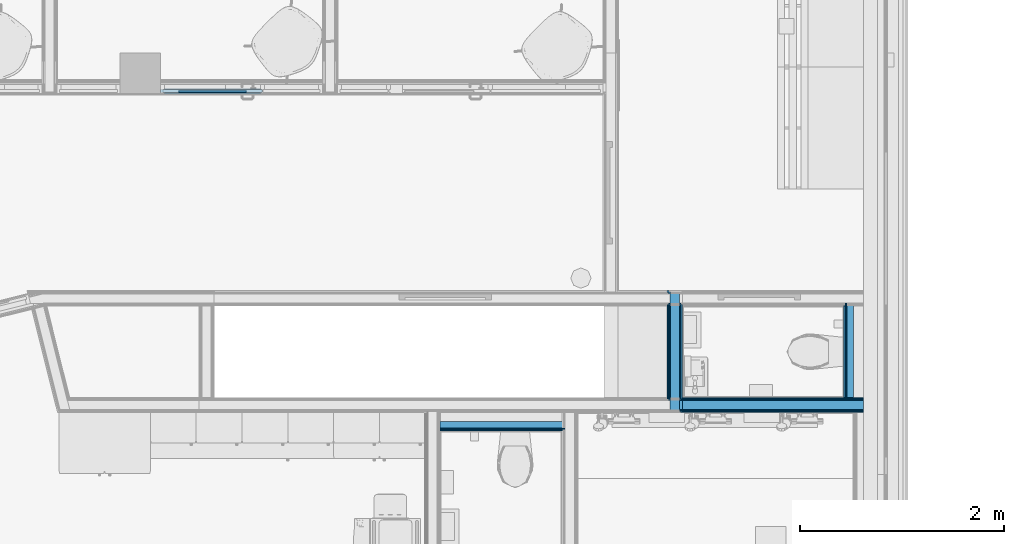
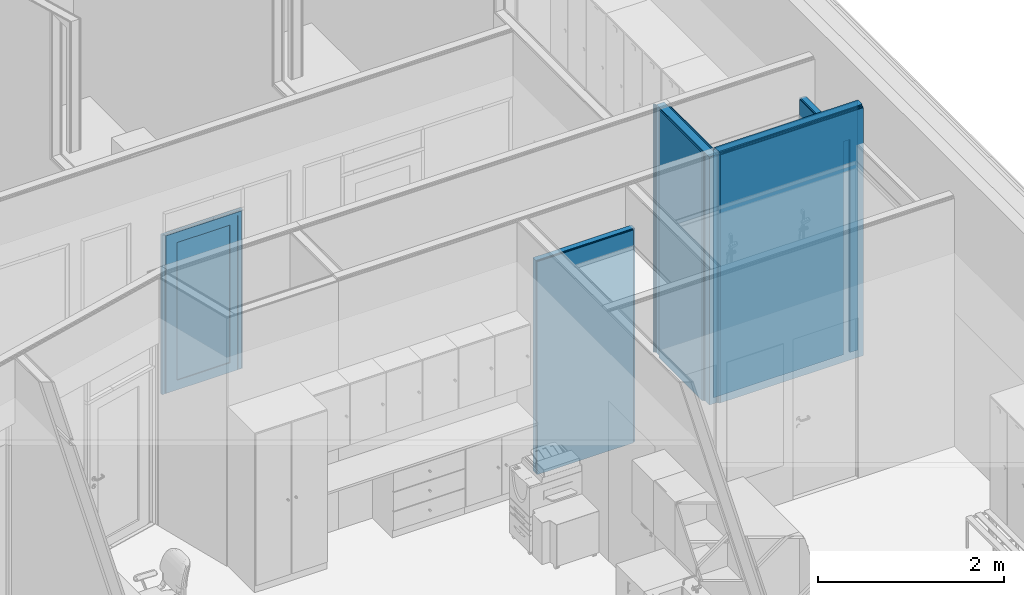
# One storey, part 82 of 153: 18 building element parts, 6 elements without a shape of their own.
"""IFC2X3 building model written with IfcOpenShell, lengths in millimetres."""

from ifc_helpers import new_model, entity, si_unit, converted_unit, derived_unit, money_unit, direction, frame, origin_with_axes, place, context, subcontext, project, spatial, faceted_brep, material, type_object, element, aggregate, save


model = new_model("IFC2X3")

# Units and contexts
model_context = context("Model", 3, precision=0.01, world=origin_with_axes(), true_north=direction((0.0, 1.0)))
body_context = subcontext(model_context, "Body", "Model", "MODEL_VIEW")
ifc_project = project(units=[si_unit("LENGTHUNIT", "METRE", prefix="MILLI"), si_unit("AREAUNIT", "SQUARE_METRE"), si_unit("VOLUMEUNIT", "CUBIC_METRE"), converted_unit("PLANEANGLEUNIT", "DEGREE", entity("IfcPlaneAngleMeasure", 0.0174532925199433), si_unit("PLANEANGLEUNIT", "RADIAN"), dimensions=[0, 0, 0, 0, 0, 0, 0]), money_unit("EUR"), converted_unit("TIMEUNIT", "Year", entity("IfcTimeMeasure", 31557600.0), si_unit("TIMEUNIT", "SECOND"), dimensions=[0, 0, 1, 0, 0, 0, 0]), si_unit("MASSUNIT", "GRAM", prefix="KILO"), si_unit("THERMODYNAMICTEMPERATUREUNIT", "DEGREE_CELSIUS"), si_unit("LUMINOUSINTENSITYUNIT", "LUMEN"), si_unit("ENERGYUNIT", "JOULE", prefix="MEGA"), derived_unit("THERMALCONDUCTANCEUNIT", [(si_unit("POWERUNIT", "WATT"), 1), (si_unit("LENGTHUNIT", "METRE"), -1), (si_unit("THERMODYNAMICTEMPERATUREUNIT", "KELVIN"), -1)]), derived_unit("SPECIFICHEATCAPACITYUNIT", [(si_unit("ENERGYUNIT", "JOULE"), 1), (si_unit("MASSUNIT", "GRAM", prefix="KILO"), -1), (si_unit("THERMODYNAMICTEMPERATUREUNIT", "KELVIN"), -1)]), derived_unit("MASSDENSITYUNIT", [(si_unit("MASSUNIT", "GRAM", prefix="KILO"), 1), (si_unit("VOLUMEUNIT", "CUBIC_METRE"), -1)])], contexts=[model_context])

# Site, building, storey
site_placement = place(None, frame((0.0, 0.0, 8650.0), z_axis=(0.0, 0.0, 1.0), x_axis=(1.0, 0.0, 0.0)))
site = spatial("IfcSite", under=ifc_project, at=site_placement, Name="43301:001:0844", CompositionType="ELEMENT")
building_placement = place(site_placement, origin_with_axes())
building = spatial("IfcBuilding", under=site, at=building_placement, Name="Kuressaare Ametikooli tuulikute mehaanikute õppekorpus", CompositionType="ELEMENT")
storey_placement = place(building_placement, frame((0.0, 0.0, 4100.0), z_axis=(0.0, 0.0, 1.0), x_axis=(1.0, 0.0, 0.0)))
storey = spatial("IfcBuildingStorey", under=building, at=storey_placement, Name="2.korrus", CompositionType="ELEMENT", Elevation=4100.0)

# Wall, building element parts
wall_type_1 = type_object("IfcWallType", Name="SS-2.4 92", PredefinedType="NOTDEFINED")
wall_1_placement = place(storey_placement, frame((132833.9464416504, 21634.06892395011, 0.0), z_axis=(0.0, 0.0, 1.0), x_axis=(0.0, -1.0, 0.0)))
wall_1 = element("IfcWall", 1, at=wall_1_placement, inside=storey, type_object=wall_type_1, Name="Sisesein")
ifc_material_1 = material(Name="Air Space - Frame")
building_element_part_1_placement = place(wall_1_placement, origin_with_axes())
building_element_part_1 = element("IfcBuildingElementPart", 2, at=building_element_part_1_placement, material=ifc_material_1, Name="Air Space - Frame", context=body_context, shape_type="Brep", body=[
    faceted_brep([(1072.999999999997, 26.00000000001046, 2799.999999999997), (1072.999999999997, 92.00000000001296, 2799.999999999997), (120.9999999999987, 92.00000000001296, 2799.999999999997), (120.9999999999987, 26.00000000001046, 2799.999999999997), (1072.999999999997, 26.00000000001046, 0.0), (1072.999999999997, 92.00000000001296, 0.0), (120.9999999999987, 92.00000000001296, 0.0), (120.9999999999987, 26.00000000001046, 0.0)], [[[0, 1, 2, 3]], [[1, 0, 4, 5]], [[1, 5, 6, 2]], [[3, 2, 6, 7]], [[0, 3, 7, 4]], [[5, 4, 7, 6]]]),
])
ifc_material_2 = material(Name="Plywood")
building_element_part_2_placement = place(wall_1_placement, origin_with_axes())
building_element_part_2 = element("IfcBuildingElementPart", 3, at=building_element_part_2_placement, material=ifc_material_2, Name="Plywood", context=body_context, shape_type="Brep", body=[
    faceted_brep([(1072.999999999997, 13.00000000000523, 2799.999999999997), (1072.999999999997, 26.00000000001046, 2799.999999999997), (120.9999999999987, 26.00000000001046, 2799.999999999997), (120.9999999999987, 13.00000000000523, 2799.999999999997), (1072.999999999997, 13.00000000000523, 0.0), (1072.999999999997, 26.00000000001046, 0.0), (120.9999999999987, 26.00000000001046, 0.0), (120.9999999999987, 13.00000000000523, 0.0)], [[[0, 1, 2, 3]], [[1, 0, 4, 5]], [[1, 5, 6, 2]], [[3, 2, 6, 7]], [[0, 3, 7, 4]], [[5, 4, 7, 6]]]),
])
ifc_material_3 = material(Name="Plaster - Gypsum")
building_element_part_3_placement = place(wall_1_placement, origin_with_axes())
building_element_part_3 = element("IfcBuildingElementPart", 4, at=building_element_part_3_placement, material=ifc_material_3, Name="Plaster - Gypsum", context=body_context, shape_type="Brep", body=[
    faceted_brep([(1046.999999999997, 0.0, 2799.999999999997), (1046.999999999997, 13.00000000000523, 2799.999999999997), (146.9999999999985, 13.00000000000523, 2799.999999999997), (146.9999999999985, 0.0, 2799.999999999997), (1046.999999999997, 0.0, 0.0), (1046.999999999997, 13.00000000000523, 0.0), (146.9999999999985, 13.00000000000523, 0.0), (146.9999999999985, 0.0, 0.0)], [[[0, 1, 2, 3]], [[1, 0, 4, 5]], [[1, 5, 6, 2]], [[3, 2, 6, 7]], [[0, 3, 7, 4]], [[5, 4, 7, 6]]]),
])
aggregate(wall_1, [building_element_part_1, building_element_part_2, building_element_part_3])

wall_type_2 = type_object("IfcWallType", Name="SS-2.1 147", PredefinedType="NOTDEFINED")
wall_2_placement = place(storey_placement, frame((131245.1591945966, 21634.06892395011, 0.0), z_axis=(0.0, 0.0, 1.0), x_axis=(0.0, -1.0, 0.0)))
wall_2 = element("IfcWall", 5, at=wall_2_placement, inside=storey, type_object=wall_type_2, Name="Sisesein")
ifc_material_4 = material(Name="Kipsplaat")
building_element_part_4_placement = place(wall_2_placement, origin_with_axes())
building_element_part_4 = element("IfcBuildingElementPart", 6, at=building_element_part_4_placement, material=ifc_material_4, Name="Kipsplaat", context=body_context, shape_type="Brep", body=[
    faceted_brep([(1180.999999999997, 0.0, 3259.999999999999), (1193.999999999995, 0.0, 3259.999999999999), (1193.999999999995, 0.0, 0.0), (1180.999999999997, 0.0, 0.0), (1180.999999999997, -13.00000000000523, 3259.999999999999), (1193.999999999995, -13.00000000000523, 3259.999999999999), (1193.999999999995, -13.00000000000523, 0.0), (1180.999999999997, -13.00000000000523, 0.0)], [[[0, 1, 2, 3]], [[0, 4, 5, 1]], [[2, 1, 5, 6]], [[7, 3, 2, 6]], [[4, 0, 3, 7]], [[4, 7, 6, 5]]]),
    faceted_brep([(1059.999999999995, -13.00000000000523, 3259.999999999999), (1059.999999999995, 0.0, 3259.999999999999), (134.0000000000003, 0.0, 3259.999999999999), (134.0000000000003, -13.00000000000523, 3259.999999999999), (1059.999999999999, -13.00000000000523, 0.0), (1059.999999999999, 0.0, 0.0), (134.0000000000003, 0.0, 0.0), (134.0000000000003, -13.00000000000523, 0.0)], [[[0, 1, 2, 3]], [[1, 0, 4, 5]], [[1, 5, 6, 2]], [[3, 2, 6, 7]], [[0, 3, 7, 4]], [[5, 4, 7, 6]]]),
])
ifc_material_5 = material(Name="Soojustus - Mineraalvill pehme")
building_element_part_5_placement = place(wall_2_placement, origin_with_axes())
building_element_part_5 = element("IfcBuildingElementPart", 7, at=building_element_part_5_placement, material=ifc_material_5, Name="Soojustus - Mineraalvill pehme", context=body_context, shape_type="Brep", body=[
    faceted_brep([(1167.999999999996, -121.0000000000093, 3259.999999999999), (1167.999999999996, -26.00000000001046, 3259.999999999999), (25.9999999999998, -26.00000000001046, 3259.999999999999), (25.9999999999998, -121.0000000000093, 3259.999999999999), (1167.999999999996, -121.0000000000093, 0.0), (1167.999999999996, -26.00000000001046, 0.0), (25.9999999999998, -26.00000000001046, 0.0), (25.9999999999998, -121.0000000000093, 0.0)], [[[0, 1, 2, 3]], [[1, 0, 4, 5]], [[1, 5, 6, 2]], [[3, 2, 6, 7]], [[0, 3, 7, 4]], [[5, 4, 7, 6]]]),
])
building_element_part_6_placement = place(wall_2_placement, origin_with_axes())
building_element_part_6 = element("IfcBuildingElementPart", 8, at=building_element_part_6_placement, material=ifc_material_4, Name="Kipsplaat", context=body_context, shape_type="Brep", body=[
    faceted_brep([(1167.999999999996, -13.00000000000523, 3259.999999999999), (1180.999999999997, -13.00000000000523, 3259.999999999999), (1180.999999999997, -13.00000000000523, 0.0), (1167.999999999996, -13.00000000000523, 0.0), (1167.999999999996, -26.00000000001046, 3259.999999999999), (1180.999999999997, -26.00000000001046, 3259.999999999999), (1180.999999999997, -26.00000000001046, 0.0), (1167.999999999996, -26.00000000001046, 0.0)], [[[0, 1, 2, 3]], [[0, 4, 5, 1]], [[1, 5, 6, 2]], [[7, 3, 2, 6]], [[4, 0, 3, 7]], [[4, 7, 6, 5]]]),
    faceted_brep([(1072.999999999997, -26.00000000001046, 3259.999999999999), (1072.999999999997, -13.00000000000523, 3259.999999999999), (120.9999999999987, -13.00000000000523, 3259.999999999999), (120.9999999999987, -26.00000000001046, 3259.999999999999), (1072.999999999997, -26.00000000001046, 0.0), (1072.999999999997, -13.00000000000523, 0.0), (120.9999999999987, -13.00000000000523, 0.0), (120.9999999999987, -26.00000000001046, 0.0)], [[[0, 1, 2, 3]], [[1, 0, 4, 5]], [[1, 5, 6, 2]], [[3, 2, 6, 7]], [[0, 3, 7, 4]], [[5, 4, 7, 6]]]),
])
building_element_part_7_placement = place(wall_2_placement, origin_with_axes())
building_element_part_7 = element("IfcBuildingElementPart", 9, at=building_element_part_7_placement, material=ifc_material_4, Name="Kipsplaat", context=body_context, shape_type="Brep", body=[
    faceted_brep([(134.0000000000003, -133.9999999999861, 0.0), (134.0000000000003, -133.9999999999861, 3259.999999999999), (1059.999999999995, -133.9999999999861, 3259.999999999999), (1059.999999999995, -133.9999999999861, 0.0), (134.0000000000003, -146.9999999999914, 3259.999999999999), (134.0000000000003, -146.9999999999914, 0.0), (1059.999999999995, -146.9999999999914, 3259.999999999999), (1059.999999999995, -146.9999999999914, 0.0)], [[[0, 1, 2, 3]], [[4, 1, 0, 5]], [[1, 4, 6, 2]], [[2, 6, 7, 3]], [[5, 0, 3, 7]], [[4, 5, 7, 6]]]),
    faceted_brep([(13.00000000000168, -146.9999999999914, 3259.999999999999), (13.00000000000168, -133.9999999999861, 3259.999999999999), (0.0, -133.9999999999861, 3259.999999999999), (0.0, -146.9999999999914, 3259.999999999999), (13.00000000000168, -133.9999999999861, 0.0), (13.00000000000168, -146.9999999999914, 0.0), (0.0, -133.9999999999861, 0.0), (0.0, -146.9999999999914, 0.0)], [[[0, 1, 2, 3]], [[4, 1, 0, 5]], [[1, 4, 6, 2]], [[3, 2, 6, 7]], [[5, 0, 3, 7]], [[4, 5, 7, 6]]]),
])
building_element_part_8_placement = place(wall_2_placement, origin_with_axes())
building_element_part_8 = element("IfcBuildingElementPart", 10, at=building_element_part_8_placement, material=ifc_material_4, Name="Kipsplaat", context=body_context, shape_type="Brep", body=[
    faceted_brep([(120.9999999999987, -121.0000000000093, 0.0), (120.9999999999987, -121.0000000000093, 3259.999999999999), (1072.999999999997, -121.0000000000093, 3259.999999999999), (1072.999999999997, -121.0000000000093, 0.0), (120.9999999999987, -133.9999999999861, 3259.999999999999), (120.9999999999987, -133.9999999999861, 0.0), (1072.999999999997, -133.9999999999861, 3259.999999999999), (1072.999999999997, -133.9999999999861, 0.0)], [[[0, 1, 2, 3]], [[4, 1, 0, 5]], [[1, 4, 6, 2]], [[2, 6, 7, 3]], [[5, 0, 3, 7]], [[4, 5, 7, 6]]]),
    faceted_brep([(25.9999999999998, -133.9999999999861, 3259.999999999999), (25.9999999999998, -121.0000000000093, 3259.999999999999), (13.00000000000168, -121.0000000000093, 3259.999999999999), (13.00000000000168, -133.9999999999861, 3259.999999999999), (25.9999999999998, -121.0000000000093, 0.0), (25.9999999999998, -133.9999999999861, 0.0), (13.00000000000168, -121.0000000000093, 0.0), (13.00000000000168, -133.9999999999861, 0.0)], [[[0, 1, 2, 3]], [[4, 1, 0, 5]], [[1, 4, 6, 2]], [[3, 2, 6, 7]], [[5, 0, 3, 7]], [[4, 5, 7, 6]]]),
])
aggregate(wall_2, [building_element_part_4, building_element_part_5, building_element_part_6, building_element_part_7, building_element_part_8])

wall_3_placement = place(storey_placement, frame((128864.9907946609, 20260.06892395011, 0.0), z_axis=(0.0, 0.0, 1.0), x_axis=(1.0, 0.0, 0.0)))
wall_3 = element("IfcWall", 11, at=wall_3_placement, inside=storey, type_object=wall_type_1, Name="Sisesein")
building_element_part_9_placement = place(wall_3_placement, origin_with_axes())
building_element_part_9 = element("IfcBuildingElementPart", 12, at=building_element_part_9_placement, material=ifc_material_2, Name="Plywood", context=body_context, shape_type="Brep", body=[
    faceted_brep([(0.0, 25.9999999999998, 0.0), (1225.999999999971, 25.9999999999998, 0.0), (1225.999999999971, 13.00000000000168, 0.0), (0.0, 13.00000000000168, 0.0), (0.0, 25.9999999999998, 2799.999999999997), (1225.999999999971, 25.9999999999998, 2799.999999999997), (1225.999999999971, 13.00000000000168, 2799.999999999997), (0.0, 13.00000000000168, 2799.999999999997)], [[[0, 1, 2, 3]], [[4, 5, 1, 0]], [[2, 1, 5, 6]], [[3, 2, 6, 7]], [[4, 0, 3, 7]], [[7, 6, 5, 4]]]),
])
building_element_part_10_placement = place(wall_3_placement, origin_with_axes())
building_element_part_10 = element("IfcBuildingElementPart", 13, at=building_element_part_10_placement, material=ifc_material_1, Name="Air Space - Frame", context=body_context, shape_type="Brep", body=[
    faceted_brep([(0.0, 91.99999999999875, 0.0), (1225.999999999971, 91.99999999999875, 0.0), (1225.999999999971, 25.9999999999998, 0.0), (0.0, 25.9999999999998, 0.0), (0.0, 91.99999999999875, 2799.999999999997), (1225.999999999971, 91.99999999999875, 2799.999999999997), (1225.999999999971, 25.9999999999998, 2799.999999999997), (0.0, 25.9999999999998, 2799.999999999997)], [[[0, 1, 2, 3]], [[4, 5, 1, 0]], [[2, 1, 5, 6]], [[3, 2, 6, 7]], [[4, 0, 3, 7]], [[7, 6, 5, 4]]]),
])
building_element_part_11_placement = place(wall_3_placement, origin_with_axes())
building_element_part_11 = element("IfcBuildingElementPart", 14, at=building_element_part_11_placement, material=ifc_material_3, Name="Plaster - Gypsum", context=body_context, shape_type="Brep", body=[
    faceted_brep([(0.0, 13.00000000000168, 0.0), (1199.999999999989, 13.00000000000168, 0.0), (1199.999999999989, 0.0, 0.0), (0.0, 0.0, 0.0), (0.0, 13.00000000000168, 2799.999999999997), (1199.999999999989, 13.00000000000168, 2799.999999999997), (1199.999999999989, 0.0, 2799.999999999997), (0.0, 0.0, 2799.999999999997)], [[[0, 1, 2, 3]], [[4, 5, 1, 0]], [[2, 1, 5, 6]], [[3, 2, 6, 7]], [[4, 0, 3, 7]], [[7, 6, 5, 4]]]),
])
aggregate(wall_3, [building_element_part_9, building_element_part_10, building_element_part_11])

# Curtain wall, door, building element parts
curtain_wall_type = type_object("IfcCurtainWallType", Name="Curtain Wall Type", PredefinedType="NOTDEFINED")
curtain_wall_placement = place(storey_placement, frame((126664.0825969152, 23599.06892395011, 9.536752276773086e-05), z_axis=(0.0, 0.0, 1.0), x_axis=(1.0, 0.0, 0.0)))
curtain_wall = element("IfcCurtainWall", 15, at=curtain_wall_placement, inside=storey, type_object=curtain_wall_type, Name="PKF-1.4")
door_style = type_object("IfcDoorStyle", Name="613 x 2095 x 30", ConstructionType="NOTDEFINED", OperationType="SINGLE_SWING_LEFT", ParameterTakesPrecedence=False, Sizeable=False)
door_placement = place(curtain_wall_placement, frame((0.0, 0.0, 1049.999910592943), z_axis=(0.0, 0.0, 1.0), x_axis=(1.0, 0.0, 0.0)))
door = element("IfcDoor", 16, at=door_placement, type_object=door_style, Name="PKU10,dB", OverallHeight=2070.0, OverallWidth=940.0)
aggregate(curtain_wall, [door])
ifc_material_6 = material(Name="Aluminium")
building_element_part_12_placement = place(door_placement, origin_with_axes())
building_element_part_12 = element("IfcBuildingElementPart", 17, at=building_element_part_12_placement, material=ifc_material_6, Name="Aluminium", context=body_context, shape_type="Brep", body=[
    faceted_brep([(433.9857637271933, -24.99999999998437, -1039.999996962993), (433.9857637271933, -24.99999999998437, 1030.00001925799), (433.9857637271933, -29.99999999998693, 1030.00001925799), (433.9857637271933, -29.99999999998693, -1039.999996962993), (388.9857637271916, -24.99999999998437, -1039.999996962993), (388.9857637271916, -24.99999999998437, 985.0000192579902), (388.9857637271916, -29.99999999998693, 985.0000192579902), (388.9857637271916, -29.99999999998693, -1039.999996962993)], [[[0, 1, 2, 3]], [[0, 4, 5, 1]], [[1, 5, 6, 2]], [[3, 2, 6, 7]], [[4, 0, 3, 7]], [[5, 4, 7, 6]]]),
    faceted_brep([(-506.0142684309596, -24.99999999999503, 1030.00001925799), (-461.0142684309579, -24.99999999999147, 985.0000192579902), (-461.0142684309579, -29.99999999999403, 985.0000192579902), (-506.0142684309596, -29.99999999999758, 1030.00001925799), (433.9857637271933, -24.99999999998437, 1030.00001925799), (388.9857637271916, -24.99999999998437, 985.0000192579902), (388.9857637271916, -29.99999999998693, 985.0000192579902), (433.9857637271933, -29.99999999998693, 1030.00001925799)], [[[0, 1, 2, 3]], [[0, 4, 5, 1]], [[1, 5, 6, 2]], [[3, 2, 6, 7]], [[4, 0, 3, 7]], [[5, 4, 7, 6]]]),
    faceted_brep([(-506.0142684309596, -24.99999999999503, -1039.999996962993), (-461.0142684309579, -24.99999999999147, -1039.999996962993), (-461.0142684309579, -29.99999999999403, -1039.999996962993), (-506.0142684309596, -29.99999999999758, -1039.999996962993), (-506.0142684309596, -24.99999999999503, 1030.00001925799), (-461.0142684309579, -24.99999999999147, 985.0000192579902), (-461.0142684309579, -29.99999999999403, 985.0000192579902), (-506.0142684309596, -29.99999999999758, 1030.00001925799)], [[[0, 1, 2, 3]], [[0, 4, 5, 1]], [[1, 5, 6, 2]], [[3, 2, 6, 7]], [[4, 0, 3, 7]], [[5, 4, 7, 6]]]),
    faceted_brep([(433.9857637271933, 25.00000000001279, -1039.999996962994), (433.9857637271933, 25.00000000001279, 1030.00001925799), (433.9857637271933, -24.99999999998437, 1030.00001925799), (433.9857637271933, -24.99999999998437, -1039.999996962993), (413.9857637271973, 25.00000000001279, -1039.999996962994), (413.9857637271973, 25.00000000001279, 1010.000019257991), (413.9857637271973, -24.99999999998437, 1010.000019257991), (413.9857637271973, -24.99999999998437, -1039.999996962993)], [[[0, 1, 2, 3]], [[0, 4, 5, 1]], [[1, 5, 6, 2]], [[3, 2, 6, 7]], [[4, 0, 3, 7]], [[5, 4, 7, 6]]]),
    faceted_brep([(-506.0142684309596, 25.00000000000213, 1030.00001925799), (-486.0142684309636, 25.00000000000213, 1010.000019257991), (-486.0142684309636, -24.99999999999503, 1010.000019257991), (-506.0142684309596, -24.99999999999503, 1030.00001925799), (433.9857637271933, 25.00000000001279, 1030.00001925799), (413.9857637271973, 25.00000000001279, 1010.000019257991), (413.9857637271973, -24.99999999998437, 1010.000019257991), (433.9857637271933, -24.99999999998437, 1030.00001925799)], [[[0, 1, 2, 3]], [[0, 4, 5, 1]], [[1, 5, 6, 2]], [[3, 2, 6, 7]], [[4, 0, 3, 7]], [[5, 4, 7, 6]]]),
    faceted_brep([(-506.0142684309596, 25.00000000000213, -1039.999996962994), (-486.0142684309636, 25.00000000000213, -1039.999996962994), (-486.0142684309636, -24.99999999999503, -1039.999996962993), (-506.0142684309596, -24.99999999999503, -1039.999996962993), (-506.0142684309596, 25.00000000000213, 1030.00001925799), (-486.0142684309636, 25.00000000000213, 1010.000019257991), (-486.0142684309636, -24.99999999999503, 1010.000019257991), (-506.0142684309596, -24.99999999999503, 1030.00001925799)], [[[0, 1, 2, 3]], [[0, 4, 5, 1]], [[1, 5, 6, 2]], [[3, 2, 6, 7]], [[4, 0, 3, 7]], [[5, 4, 7, 6]]]),
    faceted_brep([(-546.0142731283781, 15.00000000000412, -1055.000005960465), (453.985779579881, 15.00000000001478, -1055.000005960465), (453.985779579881, -14.99999999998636, -1055.000005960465), (-546.0142731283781, -14.99999999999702, -1055.000005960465), (-506.0142684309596, 15.00000000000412, -1039.999996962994), (433.9857637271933, 15.00000000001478, -1039.999996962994), (433.9857637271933, -14.99999999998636, -1039.999996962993), (-506.0142684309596, -14.99999999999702, -1039.999996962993)], [[[0, 1, 2, 3]], [[0, 4, 5, 1]], [[1, 5, 6, 2]], [[3, 2, 6, 7]], [[4, 0, 3, 7]], [[5, 4, 7, 6]]]),
    faceted_brep([(453.985779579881, 15.00000000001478, -1055.000005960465), (453.985779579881, 15.00000000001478, 1045.000001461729), (453.985779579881, -14.99999999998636, 1045.000001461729), (453.985779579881, -14.99999999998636, -1055.000005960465), (433.9857637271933, 15.00000000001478, -1039.999996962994), (433.9857637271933, 15.00000000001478, 1030.00001925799), (433.9857637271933, -14.99999999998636, 1030.00001925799), (433.9857637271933, -14.99999999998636, -1039.999996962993)], [[[0, 1, 2, 3]], [[0, 4, 5, 1]], [[1, 5, 6, 2]], [[3, 2, 6, 7]], [[4, 0, 3, 7]], [[5, 4, 7, 6]]]),
    faceted_brep([(453.985779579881, 15.00000000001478, 1045.000001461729), (-546.0142731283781, 15.00000000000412, 1045.000001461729), (-546.0142731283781, -14.99999999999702, 1045.000001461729), (453.985779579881, -14.99999999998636, 1045.000001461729), (433.9857637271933, 15.00000000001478, 1030.00001925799), (-506.0142684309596, 15.00000000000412, 1030.00001925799), (-506.0142684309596, -14.99999999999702, 1030.00001925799), (433.9857637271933, -14.99999999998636, 1030.00001925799)], [[[0, 1, 2, 3]], [[0, 4, 5, 1]], [[1, 5, 6, 2]], [[3, 2, 6, 7]], [[4, 0, 3, 7]], [[5, 4, 7, 6]]]),
    faceted_brep([(-546.0142731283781, 15.00000000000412, 1045.000001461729), (-546.0142731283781, 15.00000000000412, -1055.000005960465), (-546.0142731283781, -14.99999999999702, -1055.000005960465), (-546.0142731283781, -14.99999999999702, 1045.000001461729), (-506.0142684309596, 15.00000000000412, 1030.00001925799), (-506.0142684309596, 15.00000000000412, -1039.999996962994), (-506.0142684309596, -14.99999999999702, -1039.999996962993), (-506.0142684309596, -14.99999999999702, 1030.00001925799)], [[[0, 1, 2, 3]], [[0, 4, 5, 1]], [[1, 5, 6, 2]], [[3, 2, 6, 7]], [[4, 0, 3, 7]], [[5, 4, 7, 6]]]),
    faceted_brep([(-366.0142684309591, -24.99999999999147, -919.9999969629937), (-366.0142684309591, 25.00000000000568, -919.9999969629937), (-366.0142684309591, 25.00000000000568, 890.0000192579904), (-366.0142684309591, -24.99999999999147, 890.0000192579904), (-486.0142684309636, -24.99999999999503, -1039.999996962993), (-486.0142684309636, 25.00000000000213, -1039.999996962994), (-486.0142684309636, 25.00000000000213, 1010.000019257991), (-486.0142684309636, -24.99999999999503, 1010.000019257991)], [[[0, 1, 2, 3]], [[4, 5, 1, 0]], [[1, 5, 6, 2]], [[3, 2, 6, 7]], [[0, 3, 7, 4]], [[7, 6, 5, 4]]]),
    faceted_brep([(413.9857637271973, -24.99999999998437, -1039.999996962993), (413.9857637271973, 25.00000000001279, -1039.999996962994), (413.9857637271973, 25.00000000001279, 1010.000019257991), (413.9857637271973, -24.99999999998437, 1010.000019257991), (293.9857637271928, -24.99999999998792, -919.9999969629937), (293.9857637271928, 25.00000000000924, -919.9999969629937), (293.9857637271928, 25.00000000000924, 890.0000192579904), (293.9857637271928, -24.99999999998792, 890.0000192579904)], [[[0, 1, 2, 3]], [[4, 5, 1, 0]], [[1, 5, 6, 2]], [[3, 2, 6, 7]], [[0, 3, 7, 4]], [[7, 6, 5, 4]]]),
    faceted_brep([(413.9857637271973, -24.99999999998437, -1039.999996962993), (413.9857637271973, 25.00000000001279, -1039.999996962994), (293.9857637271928, 25.00000000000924, -919.9999969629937), (293.9857637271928, -24.99999999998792, -919.9999969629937), (-486.0142684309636, -24.99999999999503, -1039.999996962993), (-486.0142684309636, 25.00000000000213, -1039.999996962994), (-366.0142684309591, 25.00000000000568, -919.9999969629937), (-366.0142684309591, -24.99999999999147, -919.9999969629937)], [[[0, 1, 2, 3]], [[4, 5, 1, 0]], [[1, 5, 6, 2]], [[3, 2, 6, 7]], [[0, 3, 7, 4]], [[7, 6, 5, 4]]]),
    faceted_brep([(-486.0142684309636, -24.99999999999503, 1010.000019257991), (-486.0142684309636, 25.00000000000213, 1010.000019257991), (-366.0142684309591, 25.00000000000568, 890.0000192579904), (-366.0142684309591, -24.99999999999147, 890.0000192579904), (413.9857637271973, -24.99999999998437, 1010.000019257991), (413.9857637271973, 25.00000000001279, 1010.000019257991), (293.9857637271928, 25.00000000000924, 890.0000192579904), (293.9857637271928, -24.99999999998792, 890.0000192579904)], [[[0, 1, 2, 3]], [[4, 5, 1, 0]], [[1, 5, 6, 2]], [[3, 2, 6, 7]], [[0, 3, 7, 4]], [[7, 6, 5, 4]]]),
])
ifc_material_7 = material(Name="Klaas")
building_element_part_13_placement = place(door_placement, origin_with_axes())
building_element_part_13 = element("IfcBuildingElementPart", 18, at=building_element_part_13_placement, material=ifc_material_7, Name="Klaas", context=body_context, shape_type="Brep", body=[
    faceted_brep([(-366.0142684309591, -14.99999999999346, -919.9999969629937), (-366.0142684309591, 1.000000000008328, -919.9999969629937), (293.9857637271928, 1.00000000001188, -919.9999969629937), (293.9857637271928, -14.99999999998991, -919.9999969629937), (-366.0142684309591, -14.99999999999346, 890.0000192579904), (-366.0142684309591, 1.000000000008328, 890.0000192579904), (293.9857637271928, 1.00000000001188, 890.0000192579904), (293.9857637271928, -14.99999999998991, 890.0000192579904)], [[[0, 1, 2, 3]], [[4, 5, 1, 0]], [[1, 5, 6, 2]], [[3, 2, 6, 7]], [[0, 3, 7, 4]], [[7, 6, 5, 4]]]),
])
aggregate(door, [building_element_part_12, building_element_part_13])

# Wall, building element parts
wall_4_placement = place(storey_placement, frame((131245.1591945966, 20587.06892395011, 0.0), z_axis=(0.0, 0.0, 1.0), x_axis=(1.0, 0.0, 0.0)))
wall_4 = element("IfcWall", 19, at=wall_4_placement, inside=storey, type_object=wall_type_2, Name="Sisesein")
building_element_part_14_placement = place(wall_4_placement, origin_with_axes())
building_element_part_14 = element("IfcBuildingElementPart", 20, at=building_element_part_14_placement, material=ifc_material_4, Name="Kipsplaat", context=body_context, shape_type="Brep", body=[
    faceted_brep([(0.0, -12.99999999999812, 3275.712739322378), (1779.787244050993, -12.99999999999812, 3275.712739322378), (1779.787244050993, -12.99999999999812, 0.0), (1680.787247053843, -12.99999999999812, 0.0), (1680.787247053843, -12.99999999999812, 2799.999999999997), (1601.787247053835, -12.99999999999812, 2799.999999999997), (1601.787247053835, -12.99999999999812, 0.0), (-13.00000000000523, -13.00000000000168, 0.0), (-13.00000000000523, -12.99999999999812, 3259.999999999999), (0.0, -12.99999999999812, 3259.999999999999), (1779.787244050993, -25.9999999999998, 3275.712739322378), (0.0, -25.9999999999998, 3275.712739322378), (1779.787244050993, -25.9999999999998, 0.0), (1680.787247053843, -25.9999999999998, 0.0), (1680.787247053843, -25.9999999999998, 2799.999999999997), (1601.787247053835, -25.9999999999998, 2799.999999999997), (1601.787247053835, -25.9999999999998, 0.0), (-13.00000000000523, -25.9999999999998, 0.0), (-13.00000000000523, -25.9999999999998, 3259.999999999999), (0.0, -25.9999999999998, 3259.999999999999)], [[[0, 1, 2, 3, 4, 5, 6, 7, 8, 9]], [[10, 1, 0, 11]], [[1, 10, 12, 2]], [[3, 2, 12, 13]], [[13, 14, 4, 3]], [[5, 4, 14, 15]], [[6, 5, 15, 16]], [[16, 17, 7, 6]], [[17, 18, 8, 7]], [[9, 8, 18, 19]], [[11, 0, 9, 19]], [[10, 11, 19, 18, 17, 16, 15, 14, 13, 12]]]),
])
building_element_part_15_placement = place(wall_4_placement, origin_with_axes())
building_element_part_15 = element("IfcBuildingElementPart", 21, at=building_element_part_15_placement, material=ifc_material_5, Name="Soojustus - Mineraalvill pehme", context=body_context, shape_type="Brep", body=[
    faceted_brep([(1779.787244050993, -120.9999999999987, 3290.0), (1779.787244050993, -25.9999999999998, 3290.0), (0.0, -25.9999999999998, 3289.999998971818), (0.0, -120.9999999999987, 3289.999998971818), (1779.787244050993, -120.9999999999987, 0.0), (1779.787244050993, -25.9999999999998, 0.0), (-26.00000000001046, -25.9999999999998, 0.0), (-26.00000000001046, -25.9999999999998, 3259.999999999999), (0.0, -25.9999999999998, 3259.999999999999), (0.0, -120.9999999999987, 3259.999999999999), (-26.00000000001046, -120.9999999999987, 3259.999999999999), (-26.00000000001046, -120.9999999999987, 0.0)], [[[0, 1, 2, 3]], [[1, 0, 4, 5]], [[1, 5, 6, 7, 8, 2]], [[9, 3, 2, 8]], [[0, 3, 9, 10, 11, 4]], [[5, 4, 11, 6]], [[10, 7, 6, 11]], [[7, 10, 9, 8]]]),
])
building_element_part_16_placement = place(wall_4_placement, origin_with_axes())
building_element_part_16 = element("IfcBuildingElementPart", 22, at=building_element_part_16_placement, material=ifc_material_4, Name="Kipsplaat", context=body_context, shape_type="Brep", body=[
    faceted_brep([(0.0, -120.9999999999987, 3275.712739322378), (1779.787244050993, -120.9999999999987, 3275.712739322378), (1779.787244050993, -120.9999999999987, 0.0), (-13.00000000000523, -120.9999999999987, 0.0), (-13.00000000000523, -120.9999999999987, 3259.999999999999), (0.0, -120.9999999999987, 3259.999999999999), (1779.787244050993, -133.9999999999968, 3275.712739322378), (0.0, -134.0000000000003, 3275.712739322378), (1779.787244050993, -134.0000000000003, 0.0), (-13.00000000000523, -134.0000000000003, 0.0), (-13.00000000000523, -134.0000000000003, 3259.999999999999), (0.0, -134.0000000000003, 3259.999999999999)], [[[0, 1, 2, 3, 4, 5]], [[6, 1, 0, 7]], [[1, 6, 8, 2]], [[3, 2, 8, 9]], [[9, 10, 4, 3]], [[5, 4, 10, 11]], [[7, 0, 5, 11]], [[6, 7, 11, 10, 9, 8]]]),
])
building_element_part_17_placement = place(wall_4_placement, origin_with_axes())
building_element_part_17 = element("IfcBuildingElementPart", 23, at=building_element_part_17_placement, material=ifc_material_4, Name="Kipsplaat", context=body_context, shape_type="Brep", body=[
    faceted_brep([(0.0, -134.0000000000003, 3260.712739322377), (1779.787244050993, -134.0000000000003, 3260.712739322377), (1779.787244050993, -134.0000000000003, 0.0), (0.0, -134.0000000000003, 0.0), (0.0, -134.0000000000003, 3259.999999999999), (1779.787244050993, -146.9999999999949, 3260.712739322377), (0.0, -146.9999999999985, 3260.712739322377), (1779.787244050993, -146.9999999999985, 0.0), (0.0, -146.9999999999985, 0.0), (0.0, -146.9999999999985, 3259.999999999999)], [[[0, 1, 2, 3, 4]], [[5, 1, 0, 6]], [[1, 5, 7, 2]], [[3, 2, 7, 8]], [[8, 9, 4, 3]], [[6, 0, 4, 9]], [[5, 6, 9, 8, 7]]]),
])
building_element_part_18_placement = place(wall_4_placement, origin_with_axes())
building_element_part_18 = element("IfcBuildingElementPart", 24, at=building_element_part_18_placement, material=ifc_material_4, Name="Kipsplaat", context=body_context, shape_type="Brep", body=[
    faceted_brep([(0.0, 0.0, 3260.712739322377), (1779.787244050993, 0.0, 3260.712739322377), (1779.787244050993, 0.0, 0.0), (1680.787247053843, 0.0, 0.0), (1680.787247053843, 0.0, 2799.999999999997), (1601.787247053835, 0.0, 2799.999999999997), (1601.787247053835, 0.0, 0.0), (0.0, 0.0, 0.0), (0.0, 0.0, 3259.999999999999), (1779.787244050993, -12.99999999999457, 3260.712739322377), (0.0, -12.99999999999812, 3260.712739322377), (1779.787244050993, -12.99999999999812, 0.0), (1680.787247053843, -12.99999999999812, 0.0), (1680.787247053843, -12.99999999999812, 2799.999999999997), (1601.787247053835, -12.99999999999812, 2799.999999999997), (1601.787247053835, -12.99999999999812, 0.0), (0.0, -13.00000000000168, 0.0), (0.0, -12.99999999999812, 3259.999999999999)], [[[0, 1, 2, 3, 4, 5, 6, 7, 8]], [[9, 1, 0, 10]], [[1, 9, 11, 2]], [[3, 2, 11, 12]], [[12, 13, 4, 3]], [[5, 4, 13, 14]], [[6, 5, 14, 15]], [[15, 16, 7, 6]], [[16, 17, 8, 7]], [[10, 0, 8, 17]], [[9, 10, 17, 16, 15, 14, 13, 12, 11]]]),
])
aggregate(wall_4, [building_element_part_14, building_element_part_15, building_element_part_16, building_element_part_17, building_element_part_18])

save(model, "model.ifc")
